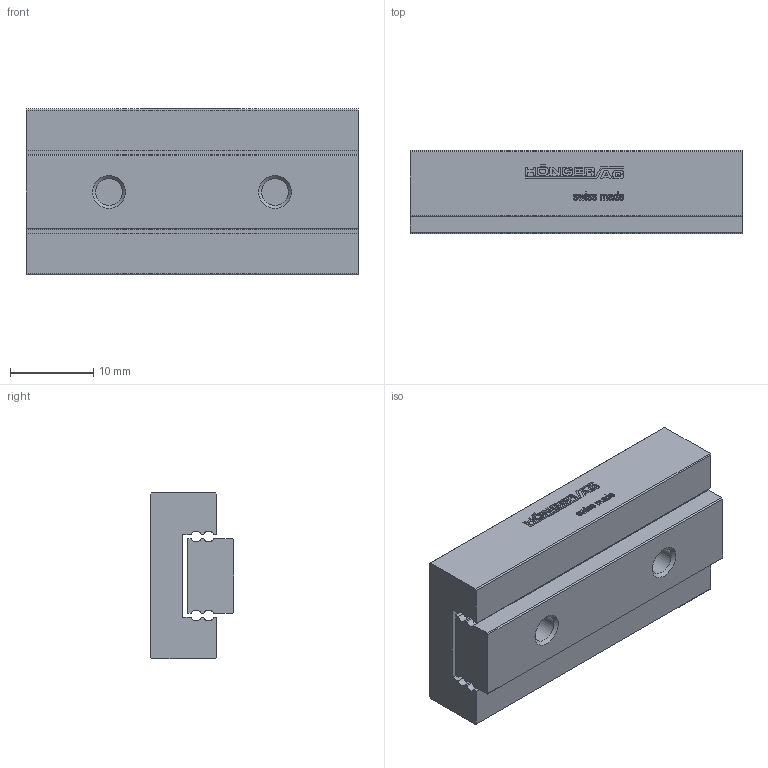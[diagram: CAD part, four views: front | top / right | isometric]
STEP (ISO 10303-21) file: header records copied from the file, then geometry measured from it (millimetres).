
FILE_DESCRIPTION(/* description */ ('STEP AP214'),/* implementation_level */ '2;1');
FILE_NAME(/* name */ 'MSK 9-40.34(0)',/* time_stamp */ '2025-04-16T17:00:38+02:00',/* author */ ('License CC BY-ND 4.0'),/* organization */ ('CADENAS'),/* preprocessor_version */ 'ST-DEVELOPER v19.3',/* originating_system */ 'PARTsolutions',/* authorisation */ ' ');
FILE_SCHEMA (('AUTOMOTIVE_DESIGN {1 0 10303 214 3 1 1}'));
Length unit declared in the file: millimetre
Products named in the file (3): MSK 9-40.34(0); MSK 9-40.34_1; MSK 9-40.34_2
Assembly tree (2 placements, depth 2):
  MSK 9-40.34(0)
    MSK 9-40.34_1
    MSK 9-40.34_2
Bounding box: 40 x 10 x 20 mm (x, y, z)
Volume: 6281.5 mm3; surface area: 4519.2 mm2
Topology: 2 solids, 2 shells, 529 faces, 1462 edges, 972 vertices
Faces by surface type: cylinder 310, plane 211, cone 8
Full cylindrical faces by diameter (mm): 2.459 x6, 3.242 x2, 6 x2
Entity records: 17113 total; most frequent: DIRECTION 3136, CARTESIAN_POINT 2948, ORIENTED_EDGE 2888, EDGE_CURVE 1444, AXIS2_PLACEMENT_3D 1160, VERTEX_POINT 972, LINE 816, VECTOR 816
